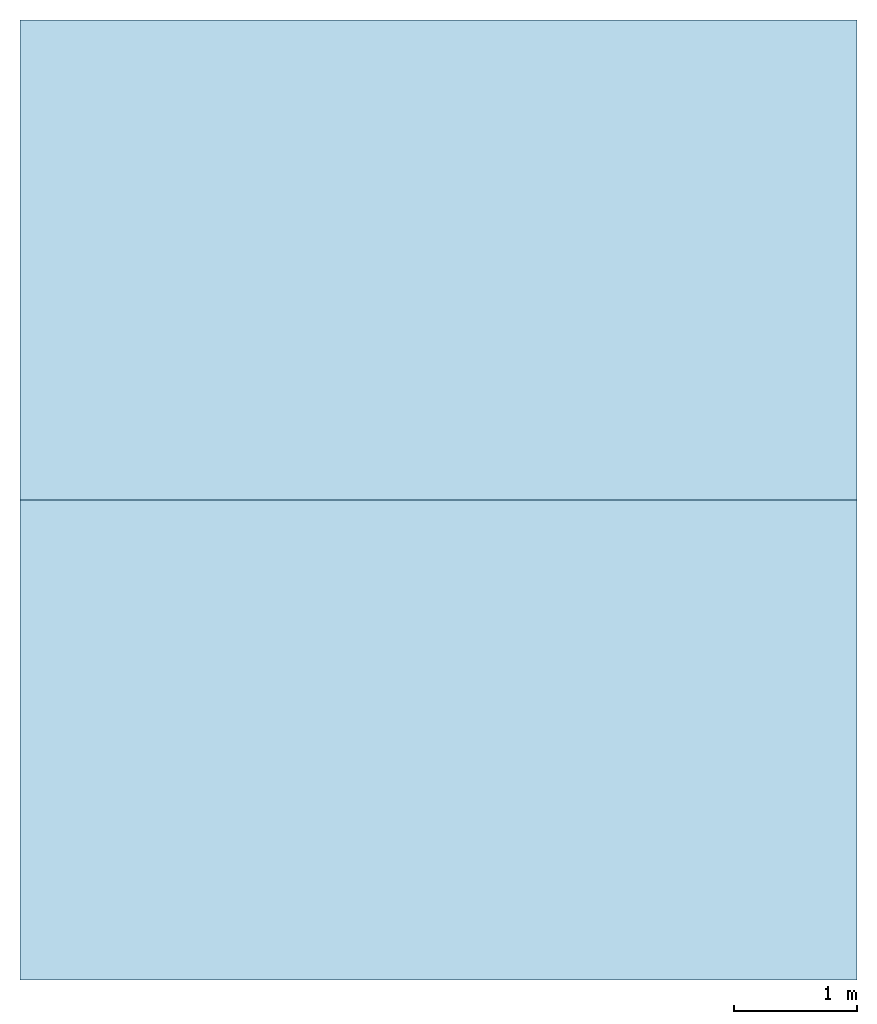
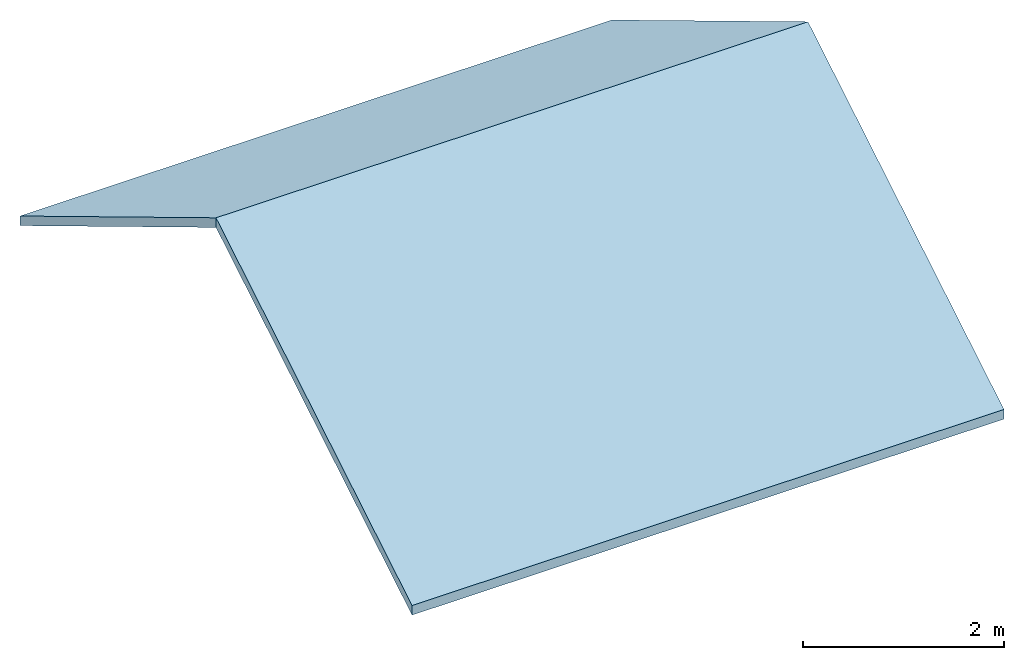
# One storey: 2 slabs, 1 element without a shape of its own.
"""IFC2X3 building model written with IfcOpenShell, lengths in metres."""

import ifcopenshell
import ifcopenshell.guid

model = None  # the IFC model being written
_history = None  # IfcOwnerHistory: only IFC2X3 demands one
_inside = {}  # id of a spatial element -> (the spatial element, [elements in it])
_under = {}  # id of a project, library or spatial element -> (it, [spatial elements below it])
_declared = {}  # id of a project -> (the project, [libraries it declares])
_typed = {}  # id of a type object -> (the type object, [elements of that type])
_made_of = {}  # id of a material, layer set ... -> (it, [elements and type objects made of it])


def new_model(schema):
    """Start an empty IFC model of exactly this schema.

    Asked for "IFC4X3", IfcOpenShell would pick the latest addendum, in which some entities
    have other attributes; the version numbers below select the first issue.
    IFC2X3 requires an IfcOwnerHistory on every rooted entity: one is made here for all.
    """
    global model, _history
    if schema == "IFC4X3":
        model = ifcopenshell.file(schema_version=(4, 3, 0, 0))
    else:
        model = ifcopenshell.file(schema=schema)
    _inside.clear()
    _under.clear()
    _declared.clear()
    _typed.clear()
    _made_of.clear()
    _history = None
    if model.schema == "IFC2X3":
        org = make("IfcOrganization", Name="unknown")
        user = make(
            "IfcPersonAndOrganization",
            ThePerson=make("IfcPerson", FamilyName="unknown"),
            TheOrganization=org,
        )
        app = make(
            "IfcApplication",
            ApplicationDeveloper=org,
            Version="unknown",
            ApplicationFullName="unknown",
            ApplicationIdentifier="unknown",
        )
        _history = make(
            "IfcOwnerHistory",
            OwningUser=user,
            OwningApplication=app,
            ChangeAction="ADDED",
            CreationDate=0,
        )
    return model


def make(cls, **values):
    """One entity of the class cls with the attributes given. An attribute that is None is left unset."""
    return model.create_entity(
        cls, **{name: value for name, value in values.items() if value is not None}
    )


def entity(cls, *values):
    """Any entity or typed value of the class cls, its attributes in the order of the schema. None: left unset."""
    e = model.create_entity(cls)
    for i, value in enumerate(values):
        if value is not None:
            e[i] = value
    return e


def rooted(cls, **values):
    """An entity with a GlobalId (a new one), such as an element, a storey or a relation."""
    return make(cls, GlobalId=ifcopenshell.guid.new(), OwnerHistory=_history, **values)


def si_unit(unit_type, name, prefix=None):
    """IfcSIUnit, for example si_unit("LENGTHUNIT", "METRE", prefix="MILLI")."""
    return make("IfcSIUnit", UnitType=unit_type, Prefix=prefix, Name=name)


def converted_unit(unit_type, name, factor, base, dimensions=None, offset=None):
    """IfcConversionBasedUnit, such as the inch: factor (a typed value) times the base unit."""
    return make(
        "IfcConversionBasedUnit"
        if offset is None
        else "IfcConversionBasedUnitWithOffset",
        ConversionOffset=offset,
        Dimensions=None
        if dimensions is None
        else entity("IfcDimensionalExponents", *dimensions),
        UnitType=unit_type,
        Name=name,
        ConversionFactor=make(
            "IfcMeasureWithUnit", ValueComponent=factor, UnitComponent=base
        ),
    )


def derived_unit(unit_type, elements):
    """IfcDerivedUnit: a product of units, each with its exponent."""
    return make(
        "IfcDerivedUnit",
        Elements=[
            make("IfcDerivedUnitElement", Unit=unit, Exponent=power)
            for unit, power in elements
        ],
        UnitType=unit_type,
    )


def assignment(units):
    """IfcUnitAssignment: the units of a project."""
    return None if units is None else make("IfcUnitAssignment", Units=units)


def point(xyz):
    """IfcCartesianPoint."""
    return None if xyz is None else make("IfcCartesianPoint", Coordinates=xyz)


def direction(xyz):
    """IfcDirection."""
    return None if xyz is None else make("IfcDirection", DirectionRatios=xyz)


def frame(location, z_axis=None, x_axis=None):
    """IfcAxis2Placement3D, a coordinate frame: its origin and axes. An axis left out is left unset."""
    return make(
        "IfcAxis2Placement3D",
        Location=point(location),
        Axis=direction(z_axis),
        RefDirection=direction(x_axis),
    )


def frame_2d(location, x_axis=None):
    """IfcAxis2Placement2D, a coordinate frame in the plane: its origin and x axis."""
    return make(
        "IfcAxis2Placement2D", Location=point(location), RefDirection=direction(x_axis)
    )


def origin():
    """The frame at (0, 0, 0) with its axes left unset."""
    return frame((0.0, 0.0, 0.0))


def place(relative_to, where):
    """IfcLocalPlacement: puts the frame where relative to a parent placement (None: the world)."""
    return make(
        "IfcLocalPlacement", PlacementRelTo=relative_to, RelativePlacement=where
    )


def context(
    kind, dimensions, precision=None, world=None, true_north=None, identifier=None
):
    """IfcGeometricRepresentationContext, for example the 3D "Model" context."""
    return make(
        "IfcGeometricRepresentationContext",
        ContextIdentifier=identifier,
        ContextType=kind,
        CoordinateSpaceDimension=dimensions,
        Precision=precision,
        WorldCoordinateSystem=world,
        TrueNorth=true_north,
    )


def subcontext(parent, identifier, kind, view, scale=None):
    """IfcGeometricRepresentationSubContext, for example "Body" below "Model"."""
    return make(
        "IfcGeometricRepresentationSubContext",
        ContextIdentifier=identifier,
        ContextType=kind,
        ParentContext=parent,
        TargetScale=scale,
        TargetView=view,
    )


def project(units=None, contexts=None):
    """IfcProject with its units and contexts."""
    return rooted(
        "IfcProject",
        Name="project",
        RepresentationContexts=contexts,
        UnitsInContext=assignment(units),
    )


def spatial(cls, under=None, at=None, **own):
    """A site, building, storey or space (cls), placed at a placement, below another one or the project."""
    s = rooted(cls, ObjectPlacement=at, **own)
    if under is not None:
        _under.setdefault(under.id(), (under, []))[1].append(s)
    return s


def profile(cls, at=None, kind="AREA", **sizes):
    """A parametric profile (cls). Its sizes go by their IFC names, for example OverallWidth=200.0."""
    return make(cls, ProfileType=kind, Position=at, **sizes)


def rectangle(**sizes):
    """IfcRectangleProfileDef."""
    return profile("IfcRectangleProfileDef", **sizes)


def extrude(swept, where, along, depth):
    """IfcExtrudedAreaSolid: the profile swept, set in the frame where, extruded along a direction by depth."""
    return make(
        "IfcExtrudedAreaSolid",
        SweptArea=swept,
        Position=where,
        ExtrudedDirection=direction(along),
        Depth=depth,
    )


def shape(context_of_items, identifier, shape_type, items):
    """IfcShapeRepresentation: the items that make up one representation, for example the "Body"."""
    return make(
        "IfcShapeRepresentation",
        ContextOfItems=context_of_items,
        RepresentationIdentifier=identifier,
        RepresentationType=shape_type,
        Items=items,
    )


def material(Name=None, Category=None):
    """IfcMaterial."""
    return make("IfcMaterial", Name=Name, Category=Category)


def layer(
    of_material, thickness, ventilated=None, Name=None, Category=None, Priority=None
):
    """IfcMaterialLayer: one layer of a wall or slab, of a material (None: an air gap)."""
    return make(
        "IfcMaterialLayer",
        Material=of_material,
        LayerThickness=thickness,
        IsVentilated=ventilated,
        Name=Name,
        Category=Category,
        Priority=Priority,
    )


def layer_set(layers, Name=None):
    """IfcMaterialLayerSet."""
    return make("IfcMaterialLayerSet", MaterialLayers=layers, LayerSetName=Name)


def made_of(thing, what):
    """Note that an element or type object is made of a material, layer set ...; save() writes the relation."""
    if what is not None:
        _made_of.setdefault(what.id(), (what, []))[1].append(thing)
    return thing


def element(
    cls,
    number,
    at=None,
    inside=None,
    cuts=None,
    type_object=None,
    material=None,
    context=None,
    identifier="Body",
    shape_type=None,
    held_by="IfcProductDefinitionShape",
    body=None,
    shapes=None,
    **own,
):
    """One element of the class cls, such as IfcWall. Its Tag is "e" and its number.

    at: its placement. inside: the storey or other place that contains it. cuts: it is an
    opening in that element (IfcRelVoidsElement). A single representation is given by context,
    identifier, shape_type and body (its items); several are given by shapes. held_by: the class
    of the entity that holds the representations. save() writes the other relations.
    """
    e = rooted(cls, Tag="e%d" % number, ObjectPlacement=at, **own)
    if body is not None:
        shapes = [shape(context, identifier, shape_type, body)]
    if shapes is not None:
        e.Representation = make(held_by, Representations=shapes)
    if inside is not None:
        _inside.setdefault(inside.id(), (inside, []))[1].append(e)
    if cuts is not None:
        rooted(
            "IfcRelVoidsElement", RelatingBuildingElement=cuts, RelatedOpeningElement=e
        )
    if type_object is not None:
        _typed.setdefault(type_object.id(), (type_object, []))[1].append(e)
    return made_of(e, material)


def aggregate(whole, parts):
    """IfcRelAggregates: a whole, such as a stair, and the parts it consists of."""
    return rooted("IfcRelAggregates", RelatingObject=whole, RelatedObjects=parts)


def save(model, path):
    """Write the relations noted so far, then the file.

    IfcRelAggregates (storeys below a building ...), IfcRelContainedInSpatialStructure (elements
    in a storey), IfcRelDefinesByType, IfcRelAssociatesMaterial and IfcRelDeclares: one each for
    every whole, place, type object, material and project.
    """
    for whole, parts in _under.values():
        aggregate(whole, parts)
    for where, things in _inside.values():
        rooted(
            "IfcRelContainedInSpatialStructure",
            RelatedElements=things,
            RelatingStructure=where,
        )
    for kind, things in _typed.values():
        rooted("IfcRelDefinesByType", RelatedObjects=things, RelatingType=kind)
    for what, things in _made_of.values():
        rooted("IfcRelAssociatesMaterial", RelatedObjects=things, RelatingMaterial=what)
    for by, libraries in _declared.values():
        rooted("IfcRelDeclares", RelatingContext=by, RelatedDefinitions=libraries)
    model.write(path)


model = new_model("IFC2X3")

# Units and contexts
model_context = context("Model", 3, precision=1e-05, world=origin(), true_north=direction((6.12303176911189e-17, 1.0)))
body_context = subcontext(model_context, "Body", "Model", "MODEL_VIEW")
ifc_project = project(units=[si_unit("LENGTHUNIT", "METRE"), si_unit("AREAUNIT", "SQUARE_METRE"), si_unit("VOLUMEUNIT", "CUBIC_METRE"), converted_unit("PLANEANGLEUNIT", "DEGREE", entity("IfcRatioMeasure", 0.0174532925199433), si_unit("PLANEANGLEUNIT", "RADIAN"), dimensions=[0, 0, 0, 0, 0, 0, 0]), si_unit("MASSUNIT", "GRAM", prefix="KILO"), si_unit("TIMEUNIT", "SECOND"), si_unit("FREQUENCYUNIT", "HERTZ"), si_unit("THERMODYNAMICTEMPERATUREUNIT", "DEGREE_CELSIUS"), derived_unit("THERMALTRANSMITTANCEUNIT", [(si_unit("MASSUNIT", "GRAM", prefix="KILO"), 1), (si_unit("THERMODYNAMICTEMPERATUREUNIT", "KELVIN"), -1), (si_unit("TIMEUNIT", "SECOND"), -3)]), derived_unit("VOLUMETRICFLOWRATEUNIT", [(si_unit("LENGTHUNIT", "METRE"), 3), (si_unit("TIMEUNIT", "SECOND"), -1)]), si_unit("ELECTRICCURRENTUNIT", "AMPERE"), si_unit("ELECTRICVOLTAGEUNIT", "VOLT"), si_unit("POWERUNIT", "WATT"), si_unit("FORCEUNIT", "NEWTON", prefix="KILO"), si_unit("ILLUMINANCEUNIT", "LUX"), si_unit("LUMINOUSFLUXUNIT", "LUMEN"), si_unit("LUMINOUSINTENSITYUNIT", "CANDELA"), derived_unit("USERDEFINED", [(si_unit("MASSUNIT", "GRAM", prefix="KILO"), -1), (si_unit("LENGTHUNIT", "METRE"), -2), (si_unit("TIMEUNIT", "SECOND"), 3), (si_unit("LUMINOUSFLUXUNIT", "LUMEN"), 1)]), derived_unit("LINEARVELOCITYUNIT", [(si_unit("LENGTHUNIT", "METRE"), 1), (si_unit("TIMEUNIT", "SECOND"), -1)]), si_unit("PRESSUREUNIT", "PASCAL"), derived_unit("USERDEFINED", [(si_unit("LENGTHUNIT", "METRE"), -2), (si_unit("MASSUNIT", "GRAM", prefix="KILO"), 1), (si_unit("TIMEUNIT", "SECOND"), -2)])], contexts=[model_context])

# Site, building, storey
site_placement = place(None, origin())
site = spatial("IfcSite", under=ifc_project, at=site_placement, Name="Surface", CompositionType="ELEMENT")
building_placement = place(site_placement, origin())
building = spatial("IfcBuilding", under=site, at=building_placement, CompositionType="ELEMENT")
storey_placement = place(building_placement, frame((0.0, 0.0, 2.45)))
storey = spatial("IfcBuildingStorey", under=building, at=storey_placement, Name="Niveau 1", CompositionType="ELEMENT", Elevation=2.45)

# Roof, slabs
roof_placement = place(storey_placement, frame((-10.0280183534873, -4.70486753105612, -0.240344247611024)))
roof = element("IfcRoof", 1, at=roof_placement, inside=storey, Name="Toit de base:Toit - 100 mm 2", ObjectType="Toit de base:Toit - 100 mm 2", ShapeType="NOTDEFINED")
ifc_material = material(Name="Toit par défaut")
ifc_layer = layer(ifc_material, 0.1)
ifc_layer_set = layer_set([ifc_layer], Name="Toit de base:Toit - 100 mm 2")
slab_1_placement = place(roof_placement, origin())
slab_1 = element("IfcSlab", 2, at=slab_1_placement, material=ifc_layer_set, Name="Toit de base:Toit - 100 mm 2", ObjectType="Toit de base:Toit - 100 mm 2", PredefinedType="ROOF", context=body_context, shape_type="SweptSolid", body=[
    extrude(rectangle(XDim=6.80000000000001, YDim=4.54987024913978, at=frame_2d((0.0, 3.5527136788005e-15), x_axis=(1.0, 0.0))), frame((3.40000000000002, 5.85000000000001, 1.17167820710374), z_axis=(0.0, 0.515038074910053, 0.857167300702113), x_axis=(1.0, 0.0, 0.0)), (0.0, -0.515038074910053, 0.857167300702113), 0.116663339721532),
])
slab_2_placement = place(roof_placement, origin())
slab_2 = element("IfcSlab", 3, at=slab_2_placement, material=ifc_layer_set, Name="Toit de base:Toit - 100 mm 2", ObjectType="Toit de base:Toit - 100 mm 2", PredefinedType="ROOF", context=body_context, shape_type="SweptSolid", body=[
    extrude(rectangle(XDim=4.54987024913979, YDim=6.8, at=frame_2d((6.66133814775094e-16, -3.77475828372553e-15), x_axis=(0.0, 1.0))), frame((3.4, 1.95000000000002, 1.17167820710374), z_axis=(0.0, -0.515038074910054, 0.857167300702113), x_axis=(1.0, 0.0, 0.0)), (0.0, 0.515038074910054, 0.857167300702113), 0.116663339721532),
])
aggregate(roof, [slab_1, slab_2])

save(model, "model.ifc")
